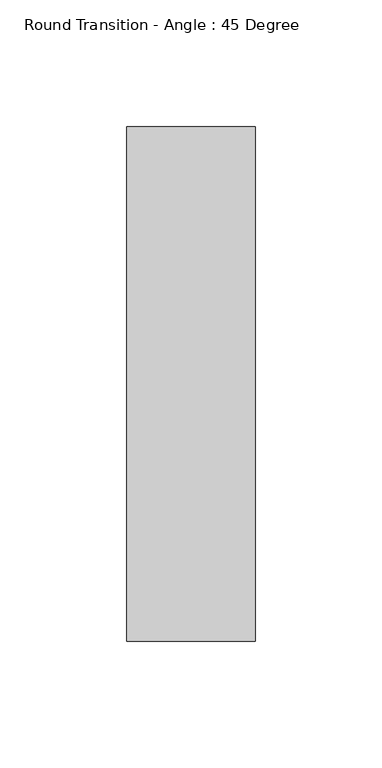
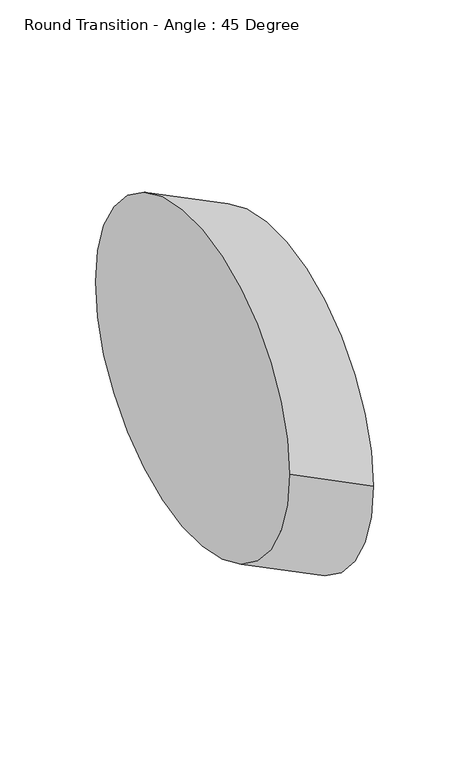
"""IFC4 building model written with IfcOpenShell, lengths in millimetres: duct fitting geometry, Round Transition - Angle : 45 Degree."""

from ifc_helpers import new_model, si_unit, point, frame, origin, place, context, project, spatial, circle_curve, trimmed, source, transform, mapped, element, save
from ifc_brep_helpers import plane_surface, extruded_surface, advanced_brep


def round_transition_angle_45_degree_3e9bb6ff(model_context):
    return source(origin(), model_context, "Body", "AdvancedBrep", [
        advanced_brep(
        [(50.8, -101.6, -25.4), (50.8, 101.6, -25.4), (0.0, -101.6, 0.0), (0.0, 101.6, 0.0)],
        [
            (0, 1, circle_curve(frame((50.8, 0.0, -25.4), z_axis=(1.0, 0.0, 0.0), x_axis=(0.0, 1.0, 0.0)), 101.6)),
            (1, 0, circle_curve(frame((50.8, 0.0, -25.4), z_axis=(1.0, 0.0, 0.0), x_axis=(0.0, 1.0, 0.0)), 101.6)),
            (2, 3, circle_curve(frame((0.0, 0.0, 0.0), z_axis=(-1.0, 0.0, 0.0), x_axis=(0.0, 1.0, 0.0)), 101.6)),
            (3, 2, circle_curve(frame((0.0, 0.0, 0.0), z_axis=(-1.0, 0.0, 0.0), x_axis=(0.0, 1.0, 0.0)), 101.6)),
            (3, 1),
            (0, 2),
        ],
        [
            plane_surface(frame((50.8, 0.0, -25.4), z_axis=(1.0, 0.0, 0.0), x_axis=(0.0, 0.0, -1.0))),
            plane_surface(frame((0.0, 0.0, 0.0), z_axis=(-1.0, 0.0, 0.0), x_axis=(0.0, 0.0, -1.0))),
            extruded_surface(trimmed(circle_curve(frame((0.0, 0.0, 0.0), z_axis=(1.0, 0.0, 0.0), x_axis=(0.0, 1.0, 0.0)), 101.6), [point((0.0, -101.6, 0.0))], [point((0.0, 101.6, 0.0))], True, "CARTESIAN"), (50.8, 0.0, -25.4), 56.796126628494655),
            extruded_surface(trimmed(circle_curve(frame((0.0, 0.0, 0.0), z_axis=(1.0, 0.0, 0.0), x_axis=(0.0, 1.0, 0.0)), 101.6), [point((0.0, 101.6, 0.0))], [point((0.0, -101.6, 0.0))], True, "CARTESIAN"), (50.8, 0.0, -25.4), 56.796126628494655),
        ],
        [
            (0, [[1, 2]]),
            (1, [[3, 4]]),
            (2, [[-4, 5, -1, 6]]),
            (3, [[-3, -6, -2, -5]]),
        ],
    ),
    ])


if __name__ == "__main__":
    model = new_model("IFC4")
    model_context = context("Model", 3, world=origin())
    ifc_project = project(units=[si_unit("LENGTHUNIT", "METRE", prefix="MILLI")], contexts=[model_context])
    site = spatial("IfcSite", under=ifc_project)
    building = spatial("IfcBuilding", under=site)
    placement = place(None, origin())
    round_transition_angle_45_degree_shape = round_transition_angle_45_degree_3e9bb6ff(model_context)
    element("IfcDuctFitting", 1, ObjectType="Round Transition - Angle : 45 Degree", at=placement, inside=building, context=model_context, shape_type="MappedRepresentation", body=[
        mapped(round_transition_angle_45_degree_shape, transform((0.0, 0.0, 0.0), x_axis=(1.0, 0.0, 0.0), y_axis=(0.0, 1.0, 0.0), z_axis=(0.0, 0.0, 1.0))),
    ])
    save(model, "model.ifc")
